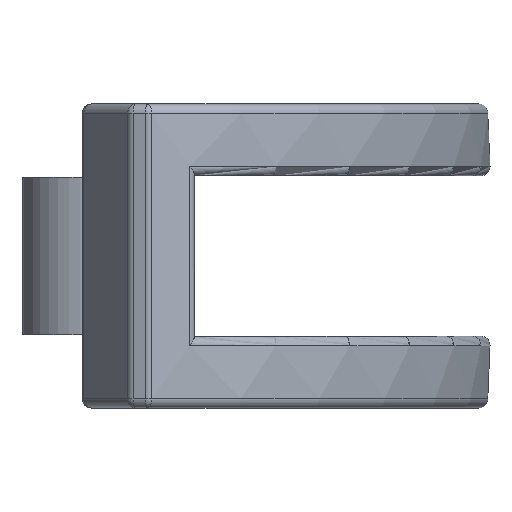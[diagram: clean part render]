
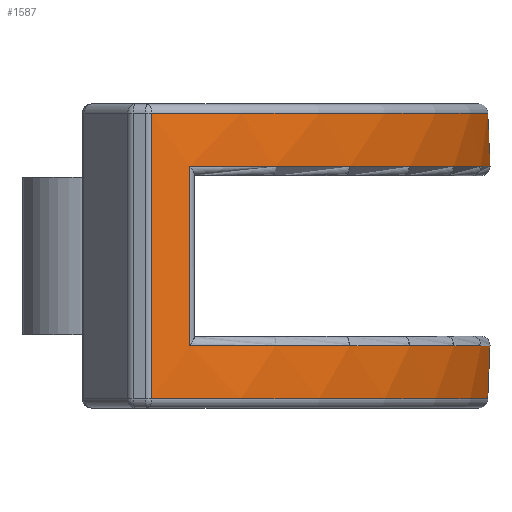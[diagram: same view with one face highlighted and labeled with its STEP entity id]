
A CAD part, left-side view. The second image highlights one B-rep face of the part: STEP entity #1587.
In plain terms, the highlighted cylindrical face has radius 33.96 mm (diameter 67.92 mm), a partial arc.
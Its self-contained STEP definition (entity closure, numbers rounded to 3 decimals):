
#109=DIRECTION('',(0.,0.,-1.));
#110=VECTOR('',#109,15.4);
#111=CARTESIAN_POINT('',(-30.105,20.244,7.7));
#112=LINE('',#111,#110);
#118=CARTESIAN_POINT('',(0.,35.96,4.83));
#119=DIRECTION('',(0.,0.,-1.));
#120=DIRECTION('',(0.852,-0.523,0.));
#121=AXIS2_PLACEMENT_3D('',#118,#119,#120);
#123=CARTESIAN_POINT('',(0.,35.96,-4.83));
#124=DIRECTION('',(0.,0.,1.));
#125=DIRECTION('',(-0.852,-0.523,0.));
#126=AXIS2_PLACEMENT_3D('',#123,#124,#125);
#128=CARTESIAN_POINT('',(0.,35.96,7.7));
#129=DIRECTION('',(0.,0.,1.));
#130=DIRECTION('',(-0.886,-0.463,0.));
#131=AXIS2_PLACEMENT_3D('',#128,#129,#130);
#133=DIRECTION('',(0.,0.,-1.));
#134=VECTOR('',#133,15.4);
#135=CARTESIAN_POINT('',(30.105,20.244,7.7));
#136=LINE('',#135,#134);
#137=CARTESIAN_POINT('',(0.,35.96,-7.7));
#138=DIRECTION('',(0.,0.,-1.));
#139=DIRECTION('',(0.886,-0.463,0.));
#140=AXIS2_PLACEMENT_3D('',#137,#138,#139);
#1186=DIRECTION('',(0.,0.,1.));
#1187=VECTOR('',#1186,9.66);
#1188=CARTESIAN_POINT('',(-28.945,18.198,-4.83));
#1189=LINE('',#1188,#1187);
#1190=DIRECTION('',(0.,0.,-1.));
#1191=VECTOR('',#1190,9.66);
#1192=CARTESIAN_POINT('',(28.945,18.198,4.83));
#1193=LINE('',#1192,#1191);
#1266=CARTESIAN_POINT('',(28.945,18.198,4.83));
#1267=CARTESIAN_POINT('',(-28.945,18.198,4.83));
#1268=VERTEX_POINT('',#1266);
#1269=VERTEX_POINT('',#1267);
#1270=CARTESIAN_POINT('',(-28.945,18.198,-4.83));
#1271=CARTESIAN_POINT('',(28.945,18.198,-4.83));
#1272=VERTEX_POINT('',#1270);
#1273=VERTEX_POINT('',#1271);
#1290=CARTESIAN_POINT('',(-30.105,20.244,7.7));
#1291=VERTEX_POINT('',#1290);
#1294=CARTESIAN_POINT('',(30.105,20.244,7.7));
#1295=VERTEX_POINT('',#1294);
#1386=CARTESIAN_POINT('',(30.105,20.244,-7.7));
#1387=VERTEX_POINT('',#1386);
#1390=CARTESIAN_POINT('',(-30.105,20.244,-7.7));
#1391=VERTEX_POINT('',#1390);
#1563=CARTESIAN_POINT('',(0.,35.96,8.25));
#1564=DIRECTION('',(0.,0.,1.));
#1565=DIRECTION('',(1.,0.,0.));
#1566=AXIS2_PLACEMENT_3D('',#1563,#1564,#1565);
#1567=CYLINDRICAL_SURFACE('',#1566,33.96);
#1569=ORIENTED_EDGE('',*,*,#1568,.T.);
#1571=ORIENTED_EDGE('',*,*,#1570,.T.);
#1573=ORIENTED_EDGE('',*,*,#1572,.T.);
#1574=ORIENTED_EDGE('',*,*,#1554,.F.);
#1575=EDGE_LOOP('',(#1569,#1571,#1573,#1574));
#1576=FACE_OUTER_BOUND('',#1575,.F.);
#1578=ORIENTED_EDGE('',*,*,#1577,.T.);
#1580=ORIENTED_EDGE('',*,*,#1579,.F.);
#1582=ORIENTED_EDGE('',*,*,#1581,.T.);
#1584=ORIENTED_EDGE('',*,*,#1583,.F.);
#1585=EDGE_LOOP('',(#1578,#1580,#1582,#1584));
#1586=FACE_BOUND('',#1585,.F.);
#1587=ADVANCED_FACE('',(#1576,#1586),#1567,.T.);
#122=CIRCLE('',#121,33.96);
#127=CIRCLE('',#126,33.96);
#132=CIRCLE('',#131,33.96);
#141=CIRCLE('',#140,33.96);
#1554=EDGE_CURVE('',#1291,#1391,#112,.T.);
#1568=EDGE_CURVE('',#1291,#1295,#132,.T.);
#1570=EDGE_CURVE('',#1295,#1387,#136,.T.);
#1572=EDGE_CURVE('',#1387,#1391,#141,.T.);
#1577=EDGE_CURVE('',#1268,#1269,#122,.T.);
#1579=EDGE_CURVE('',#1272,#1269,#1189,.T.);
#1581=EDGE_CURVE('',#1272,#1273,#127,.T.);
#1583=EDGE_CURVE('',#1268,#1273,#1193,.T.);
